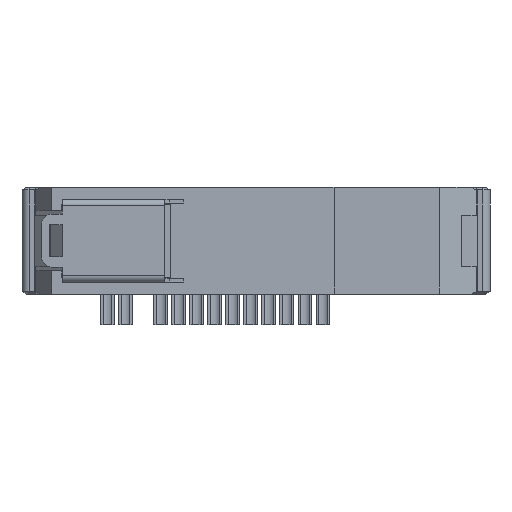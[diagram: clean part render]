
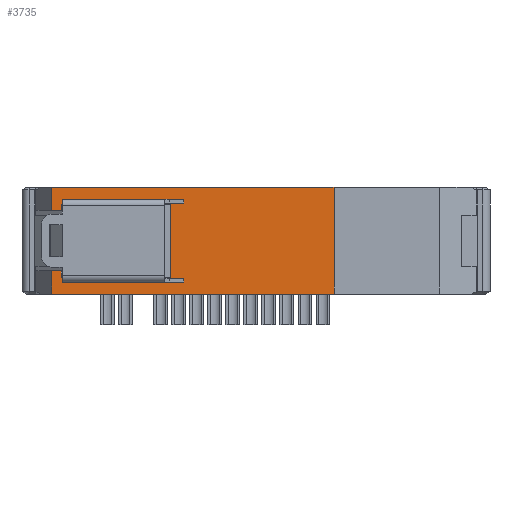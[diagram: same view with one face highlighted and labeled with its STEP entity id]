
A CAD part, front view. The second image highlights one B-rep face of the part: STEP entity #3735.
In plain terms, the highlighted planar face has unit normal (0, -1, 0).
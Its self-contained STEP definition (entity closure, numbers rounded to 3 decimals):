
#179 = CARTESIAN_POINT ( 'NONE',  ( -41.2, -78.2, -3.55 ) ) ;
#1790 = CARTESIAN_POINT ( 'NONE',  ( 16.5, -78.2, -22.6 ) ) ;
#2085 = DIRECTION ( 'NONE',  ( 1., 0., 0. ) ) ;
#2529 = ORIENTED_EDGE ( 'NONE', *, *, #37062, .F. ) ;
#2757 = EDGE_LOOP ( 'NONE', ( #51381, #15211, #53440, #12941, #51531, #52004, #50383, #21531, #38031, #2529, #18033, #12948 ) ) ;
#3146 = CARTESIAN_POINT ( 'NONE',  ( -18., -78.2, -19.05 ) ) ;
#3735 = ADVANCED_FACE ( 'NONE', ( #11735 ), #37470, .T. ) ;
#3739 = VERTEX_POINT ( 'NONE', #24075 ) ;
#4216 = DIRECTION ( 'NONE',  ( -1., 0., 0. ) ) ;
#4817 = CARTESIAN_POINT ( 'NONE',  ( -43.2, -78.2, -22.6 ) ) ;
#5150 = VECTOR ( 'NONE', #51757, 1000. ) ;
#7112 = CARTESIAN_POINT ( 'NONE',  ( -43.2, -78.2, -22.6 ) ) ;
#7298 = EDGE_CURVE ( 'NONE', #13939, #9441, #43574, .T. ) ;
#7406 = DIRECTION ( 'NONE',  ( 1., 0., 0. ) ) ;
#8065 = LINE ( 'NONE', #46088, #8323 ) ;
#8275 = CARTESIAN_POINT ( 'NONE',  ( -43.2, -78.2, 0. ) ) ;
#8323 = VECTOR ( 'NONE', #24785, 1000. ) ;
#8739 = CARTESIAN_POINT ( 'NONE',  ( -41.2, -78.2, -3.55 ) ) ;
#8951 = CARTESIAN_POINT ( 'NONE',  ( -43.2, -78.2, -22.6 ) ) ;
#9150 = CARTESIAN_POINT ( 'NONE',  ( -41.2, -78.2, -19.05 ) ) ;
#9389 = DIRECTION ( 'NONE',  ( 0., 0., 1. ) ) ;
#9441 = VERTEX_POINT ( 'NONE', #32177 ) ;
#9788 = DIRECTION ( 'NONE',  ( 1., 0., 0. ) ) ;
#11735 = FACE_OUTER_BOUND ( 'NONE', #2757, .T. ) ;
#11876 = VECTOR ( 'NONE', #9389, 1000. ) ;
#11904 = LINE ( 'NONE', #49660, #25185 ) ;
#12214 = CARTESIAN_POINT ( 'NONE',  ( 16.5, -78.2, -22.6 ) ) ;
#12941 = ORIENTED_EDGE ( 'NONE', *, *, #45868, .F. ) ;
#12948 = ORIENTED_EDGE ( 'NONE', *, *, #7298, .F. ) ;
#13805 = CARTESIAN_POINT ( 'NONE',  ( -41.2, -78.2, -4.9 ) ) ;
#13939 = VERTEX_POINT ( 'NONE', #3146 ) ;
#14013 = DIRECTION ( 'NONE',  ( 1., 0., 0. ) ) ;
#14761 = DIRECTION ( 'NONE',  ( 0., 0., 1. ) ) ;
#14821 = LINE ( 'NONE', #31813, #30247 ) ;
#15038 = CARTESIAN_POINT ( 'NONE',  ( -43.2, -78.2, -22.6 ) ) ;
#15211 = ORIENTED_EDGE ( 'NONE', *, *, #25332, .F. ) ;
#15443 = LINE ( 'NONE', #26485, #15670 ) ;
#15670 = VECTOR ( 'NONE', #2085, 1000. ) ;
#15764 = VERTEX_POINT ( 'NONE', #29398 ) ;
#16919 = CARTESIAN_POINT ( 'NONE',  ( -43.2, -78.2, -4.9 ) ) ;
#18033 = ORIENTED_EDGE ( 'NONE', *, *, #53820, .F. ) ;
#18753 = LINE ( 'NONE', #1790, #42415 ) ;
#19269 = VECTOR ( 'NONE', #29320, 1000. ) ;
#19509 = CARTESIAN_POINT ( 'NONE',  ( -43.2, -78.2, -17.7 ) ) ;
#20041 = VECTOR ( 'NONE', #50243, 1000. ) ;
#20342 = EDGE_CURVE ( 'NONE', #37877, #3739, #18753, .T. ) ;
#21531 = ORIENTED_EDGE ( 'NONE', *, *, #41312, .F. ) ;
#22774 = CARTESIAN_POINT ( 'NONE',  ( -18., -78.2, -3.55 ) ) ;
#24075 = CARTESIAN_POINT ( 'NONE',  ( 16.5, -78.2, 0. ) ) ;
#24785 = DIRECTION ( 'NONE',  ( 0., 0., -1. ) ) ;
#25185 = VECTOR ( 'NONE', #4216, 1000. ) ;
#25332 = EDGE_CURVE ( 'NONE', #15764, #27704, #8065, .T. ) ;
#26485 = CARTESIAN_POINT ( 'NONE',  ( -41.2, -78.2, -19.05 ) ) ;
#27704 = VERTEX_POINT ( 'NONE', #9150 ) ;
#28480 = DIRECTION ( 'NONE',  ( 0., 0., -1. ) ) ;
#28677 = LINE ( 'NONE', #179, #20041 ) ;
#29320 = DIRECTION ( 'NONE',  ( -1., 0., 0. ) ) ;
#29398 = CARTESIAN_POINT ( 'NONE',  ( -41.2, -78.2, -17.7 ) ) ;
#30247 = VECTOR ( 'NONE', #14013, 1000. ) ;
#31813 = CARTESIAN_POINT ( 'NONE',  ( -43.2, -78.2, 0. ) ) ;
#32177 = CARTESIAN_POINT ( 'NONE',  ( -18., -78.2, -3.55 ) ) ;
#32329 = VERTEX_POINT ( 'NONE', #37207 ) ;
#33379 = DIRECTION ( 'NONE',  ( 0., -1., 0. ) ) ;
#33533 = VERTEX_POINT ( 'NONE', #13805 ) ;
#34337 = CARTESIAN_POINT ( 'NONE',  ( -43.2, -78.2, -22.6 ) ) ;
#34359 = EDGE_CURVE ( 'NONE', #27704, #13939, #15443, .T. ) ;
#34977 = EDGE_CURVE ( 'NONE', #44360, #37877, #47264, .T. ) ;
#37062 = EDGE_CURVE ( 'NONE', #43865, #33533, #28677, .T. ) ;
#37207 = CARTESIAN_POINT ( 'NONE',  ( -43.2, -78.2, -17.7 ) ) ;
#37470 = PLANE ( 'NONE',  #50491 ) ;
#37877 = VERTEX_POINT ( 'NONE', #12214 ) ;
#38031 = ORIENTED_EDGE ( 'NONE', *, *, #46856, .F. ) ;
#38748 = VERTEX_POINT ( 'NONE', #16919 ) ;
#39895 = VECTOR ( 'NONE', #9788, 1000. ) ;
#40061 = VERTEX_POINT ( 'NONE', #8275 ) ;
#40788 = LINE ( 'NONE', #19509, #42360 ) ;
#41312 = EDGE_CURVE ( 'NONE', #38748, #40061, #52221, .T. ) ;
#41954 = LINE ( 'NONE', #34337, #11876 ) ;
#42360 = VECTOR ( 'NONE', #7406, 1000. ) ;
#42415 = VECTOR ( 'NONE', #43941, 1000. ) ;
#43574 = LINE ( 'NONE', #22774, #5150 ) ;
#43865 = VERTEX_POINT ( 'NONE', #51031 ) ;
#43941 = DIRECTION ( 'NONE',  ( 0., 0., 1. ) ) ;
#44360 = VERTEX_POINT ( 'NONE', #8951 ) ;
#45868 = EDGE_CURVE ( 'NONE', #44360, #32329, #41954, .T. ) ;
#46088 = CARTESIAN_POINT ( 'NONE',  ( -41.2, -78.2, -3.55 ) ) ;
#46856 = EDGE_CURVE ( 'NONE', #33533, #38748, #11904, .T. ) ;
#47264 = LINE ( 'NONE', #4817, #39895 ) ;
#47700 = VECTOR ( 'NONE', #14761, 1000. ) ;
#48163 = EDGE_CURVE ( 'NONE', #32329, #15764, #40788, .T. ) ;
#49438 = EDGE_CURVE ( 'NONE', #40061, #3739, #14821, .T. ) ;
#49660 = CARTESIAN_POINT ( 'NONE',  ( -43.2, -78.2, -4.9 ) ) ;
#50243 = DIRECTION ( 'NONE',  ( 0., 0., -1. ) ) ;
#50383 = ORIENTED_EDGE ( 'NONE', *, *, #49438, .F. ) ;
#50491 = AXIS2_PLACEMENT_3D ( 'NONE', #7112, #33379, #28480 ) ;
#51031 = CARTESIAN_POINT ( 'NONE',  ( -41.2, -78.2, -3.55 ) ) ;
#51381 = ORIENTED_EDGE ( 'NONE', *, *, #34359, .F. ) ;
#51531 = ORIENTED_EDGE ( 'NONE', *, *, #34977, .T. ) ;
#51757 = DIRECTION ( 'NONE',  ( 0., 0., 1. ) ) ;
#52004 = ORIENTED_EDGE ( 'NONE', *, *, #20342, .T. ) ;
#52221 = LINE ( 'NONE', #15038, #47700 ) ;
#53190 = LINE ( 'NONE', #8739, #19269 ) ;
#53440 = ORIENTED_EDGE ( 'NONE', *, *, #48163, .F. ) ;
#53820 = EDGE_CURVE ( 'NONE', #9441, #43865, #53190, .T. ) ;
